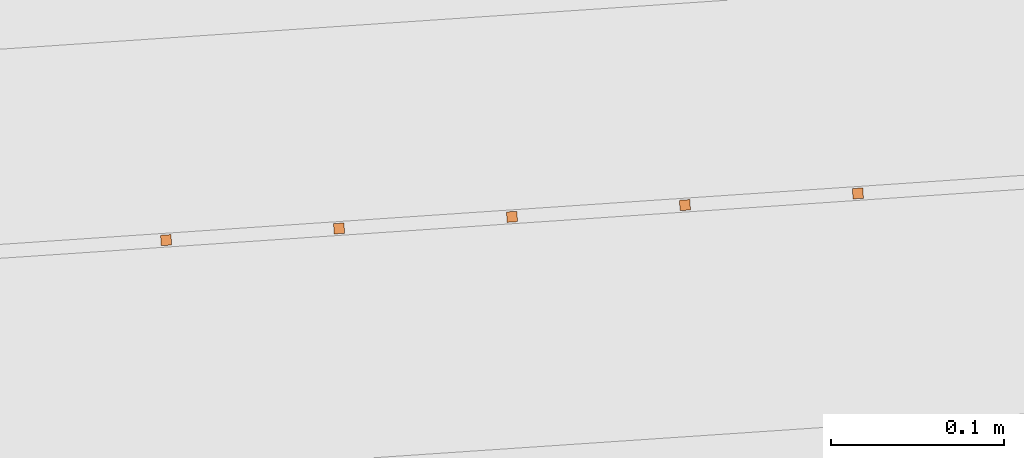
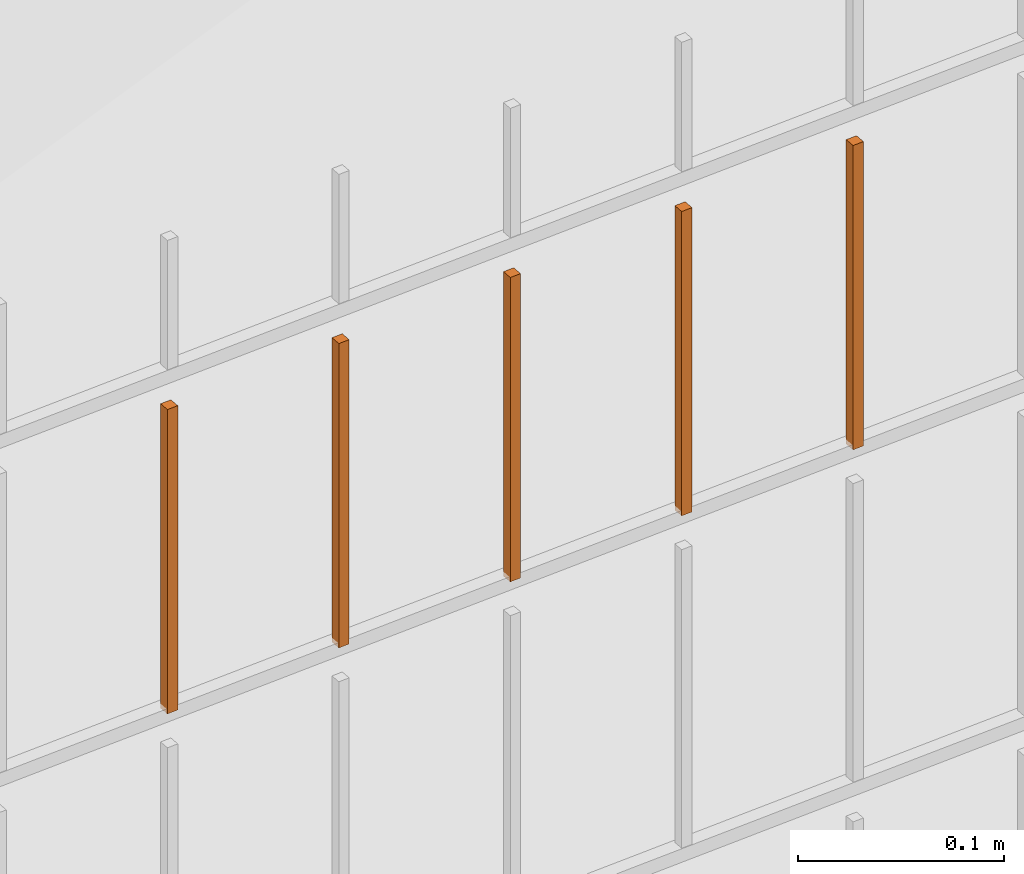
# One storey, part 87 of 1809: 5 proxies, 1 element without a shape of its own.
"""IFC2X3 building model written with IfcOpenShell, lengths in millimetres."""

from ifc_helpers import new_model, entity, si_unit, converted_unit, derived_unit, money_unit, direction, frame, origin_with_axes, place, context, subcontext, project, spatial, faceted_brep, source, transform, mapped, material, type_object, element, aggregate, save


model = new_model("IFC2X3")

# Units and contexts
model_context = context("Model", 3, precision=0.01, world=origin_with_axes(), true_north=direction((0.0, 1.0)))
body_context = subcontext(model_context, "Body", "Model", "MODEL_VIEW")
ifc_project = project(units=[si_unit("LENGTHUNIT", "METRE", prefix="MILLI"), si_unit("AREAUNIT", "SQUARE_METRE"), si_unit("VOLUMEUNIT", "CUBIC_METRE"), converted_unit("PLANEANGLEUNIT", "DEGREE", entity("IfcPlaneAngleMeasure", 0.0174532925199), si_unit("PLANEANGLEUNIT", "RADIAN"), dimensions=[0, 0, 0, 0, 0, 0, 0]), si_unit("SOLIDANGLEUNIT", "STERADIAN"), money_unit("EUR"), converted_unit("TIMEUNIT", "Year", entity("IfcTimeMeasure", 31556926.0), si_unit("TIMEUNIT", "SECOND"), dimensions=[0, 0, 1, 0, 0, 0, 0]), si_unit("MASSUNIT", "GRAM", prefix="KILO"), si_unit("THERMODYNAMICTEMPERATUREUNIT", "DEGREE_CELSIUS"), si_unit("LUMINOUSINTENSITYUNIT", "LUMEN"), si_unit("ENERGYUNIT", "JOULE", prefix="MEGA"), derived_unit("THERMALCONDUCTANCEUNIT", [(si_unit("POWERUNIT", "WATT"), 1), (si_unit("LENGTHUNIT", "METRE"), -1), (si_unit("THERMODYNAMICTEMPERATUREUNIT", "KELVIN"), -1)]), derived_unit("SPECIFICHEATCAPACITYUNIT", [(si_unit("ENERGYUNIT", "JOULE"), 1), (si_unit("MASSUNIT", "GRAM", prefix="KILO"), -1), (si_unit("THERMODYNAMICTEMPERATUREUNIT", "KELVIN"), -1)]), derived_unit("MASSDENSITYUNIT", [(si_unit("MASSUNIT", "GRAM", prefix="KILO"), 1), (si_unit("VOLUMEUNIT", "CUBIC_METRE"), -1)])], contexts=[model_context])

# Site, building, storey
site_placement = place(None, origin_with_axes())
site = spatial("IfcSite", under=ifc_project, at=site_placement, Name="Politse- ja Piirivalveameti ning Päästeameti ühishoone", CompositionType="ELEMENT")
building_placement = place(site_placement, origin_with_axes())
building = spatial("IfcBuilding", under=site, at=building_placement, Name="Politse- ja Piirivalveameti ning Päästeameti ühishoone", CompositionType="ELEMENT")
storey_placement = place(building_placement, origin_with_axes())
storey = spatial("IfcBuildingStorey", under=building, at=storey_placement, Name="Esimene korrus", CompositionType="ELEMENT", Elevation=0.0)

# Proxies
building_element_proxy_type_1 = type_object("IfcBuildingElementProxyType", Name="Railing Type", PredefinedType="NOTDEFINED")
proxy_1_placement = place(storey_placement, frame((89252.001212, -29183.4766571, 203.661247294), z_axis=(0.0, 0.0, 1.0), x_axis=(1.0, 0.0, 0.0)))
proxy_1 = element("IfcBuildingElementProxy", 1, at=proxy_1_placement, inside=storey, type_object=building_element_proxy_type_1, Name="PIIRDEAED")
ifc_material = material(Name="ET-03_Raud")
building_element_proxy_type_2 = type_object("IfcBuildingElementProxyType", Name="IfcBuildingElementProxy", PredefinedType="NOTDEFINED")
shared_shape_1 = source(origin_with_axes(), body_context, "Body", "Brep", [
    faceted_brep([(3.0, 3.0, -0.000752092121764), (-3.0, 3.0, -0.000752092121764), (-3.0, 3.0, 179.99926046), (3.0, 3.0, 179.99926046), (3.0, -3.0, 0.000752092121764), (-3.0, -3.0, 0.000752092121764), (-3.0, -3.0, 180.000764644), (3.0, -3.0, 180.000764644)], [[[0, 1, 2, 3]], [[0, 4, 5, 1]], [[1, 5, 6, 2]], [[3, 2, 6, 7]], [[4, 0, 3, 7]], [[5, 4, 7, 6]]]),
])
proxy_2_placement = place(proxy_1_placement, frame((-100797.006849, -24106.2321801, 1801.90726014), z_axis=(0.0, 0.0, 1.0), x_axis=(1.0, 0.0, 0.0)))
proxy_2 = element("IfcBuildingElementProxy", 2, at=proxy_2_placement, type_object=building_element_proxy_type_2, material=ifc_material, Name="BALUSTER - 001", context=body_context, shape_type="MappedRepresentation", body=[
    mapped(shared_shape_1, transform((0.0, 0.0, 0.0), x_axis=(-0.0673926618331, 0.997726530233, 0.0), y_axis=(-0.997726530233, -0.0673926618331, 0.0), z_axis=(0.0, 0.0, 1.0))),
])
proxy_3_placement = place(proxy_1_placement, frame((-101096.324808, -24126.4499786, 1801.83205093), z_axis=(0.0, 0.0, 1.0), x_axis=(1.0, 0.0, 0.0)))
proxy_3 = element("IfcBuildingElementProxy", 3, at=proxy_3_placement, type_object=building_element_proxy_type_2, material=ifc_material, Name="BALUSTER - 001", context=body_context, shape_type="MappedRepresentation", body=[
    mapped(shared_shape_1, transform((0.0, 0.0, 0.0), x_axis=(-0.0673926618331, 0.997726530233, 0.0), y_axis=(-0.997726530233, -0.0673926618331, 0.0), z_axis=(0.0, 0.0, 1.0))),
])
shared_shape_2 = source(origin_with_axes(), body_context, "Body", "Brep", [
    faceted_brep([(3.0, 3.0, -0.000752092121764), (-3.0, 3.0, -0.000752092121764), (-3.0, 3.0, 179.99926046), (3.0, 3.0, 179.99926046), (3.0, -3.0, 0.000752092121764), (-3.0, -3.0, 0.000752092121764), (-3.0, -3.0, 180.000764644), (3.0, -3.0, 180.000764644)], [[[0, 1, 2, 3]], [[0, 4, 5, 1]], [[1, 5, 6, 2]], [[3, 2, 6, 7]], [[4, 0, 3, 7]], [[5, 4, 7, 6]]]),
])
proxy_4_placement = place(proxy_1_placement, frame((-100996.552155, -24119.7107124, 1801.85712067), z_axis=(0.0, 0.0, 1.0), x_axis=(1.0, 0.0, 0.0)))
proxy_4 = element("IfcBuildingElementProxy", 4, at=proxy_4_placement, type_object=building_element_proxy_type_2, material=ifc_material, Name="BALUSTER - 001", context=body_context, shape_type="MappedRepresentation", body=[
    mapped(shared_shape_2, transform((0.0, 0.0, 0.0), x_axis=(-0.0673926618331, 0.997726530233, 0.0), y_axis=(-0.997726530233, -0.0673926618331, 0.0), z_axis=(0.0, 0.0, 1.0))),
])
shared_shape_3 = source(origin_with_axes(), body_context, "Body", "Brep", [
    faceted_brep([(3.0, 3.0, -0.000752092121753), (-3.0, 3.0, -0.000752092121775), (-3.0, 3.0, 179.99926046), (3.0, 3.0, 179.99926046), (3.0, -3.0, 0.000752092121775), (-3.0, -3.0, 0.000752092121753), (-3.0, -3.0, 180.000764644), (3.0, -3.0, 180.000764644)], [[[0, 1, 2, 3]], [[0, 4, 5, 1]], [[1, 5, 6, 2]], [[3, 2, 6, 7]], [[4, 0, 3, 7]], [[5, 4, 7, 6]]]),
])
proxy_5_placement = place(proxy_1_placement, frame((-100697.234196, -24099.4929139, 1801.93232988), z_axis=(0.0, 0.0, 1.0), x_axis=(1.0, 0.0, 0.0)))
proxy_5 = element("IfcBuildingElementProxy", 5, at=proxy_5_placement, type_object=building_element_proxy_type_2, material=ifc_material, Name="BALUSTER - 001", context=body_context, shape_type="MappedRepresentation", body=[
    mapped(shared_shape_3, transform((0.0, 0.0, 0.0), x_axis=(-0.0673926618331, 0.997726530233, 0.0), y_axis=(-0.997726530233, -0.0673926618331, 0.0), z_axis=(0.0, 0.0, 1.0))),
])
proxy_6_placement = place(proxy_1_placement, frame((-100896.779502, -24112.9714462, 1801.8821904), z_axis=(0.0, 0.0, 1.0), x_axis=(1.0, 0.0, 0.0)))
proxy_6 = element("IfcBuildingElementProxy", 6, at=proxy_6_placement, type_object=building_element_proxy_type_2, material=ifc_material, Name="BALUSTER - 001", context=body_context, shape_type="MappedRepresentation", body=[
    mapped(shared_shape_3, transform((0.0, 0.0, 0.0), x_axis=(-0.0673926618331, 0.997726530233, 0.0), y_axis=(-0.997726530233, -0.0673926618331, 0.0), z_axis=(0.0, 0.0, 1.0))),
])
aggregate(proxy_1, [proxy_5, proxy_2, proxy_6, proxy_4, proxy_3])

save(model, "model.ifc")
